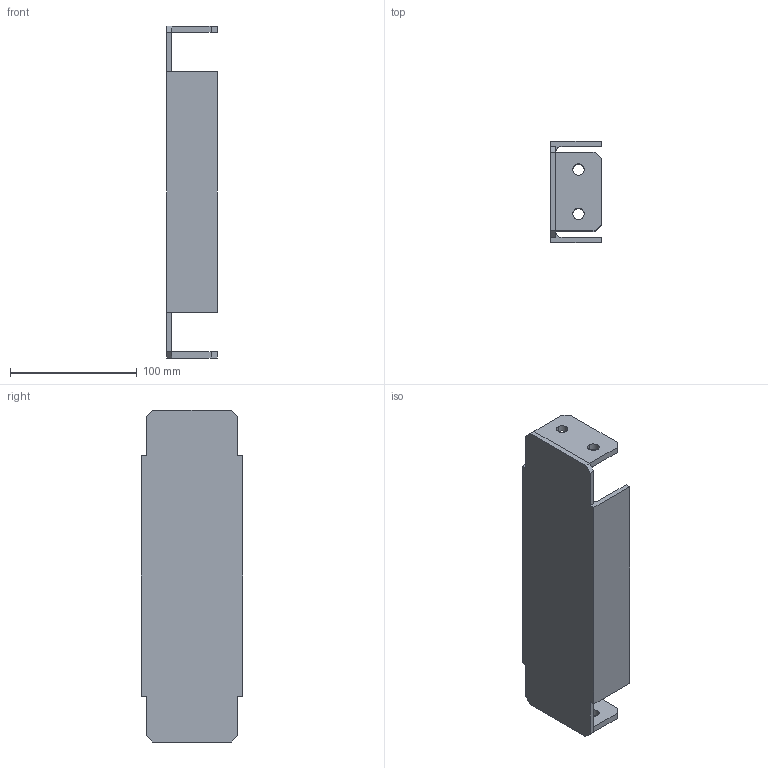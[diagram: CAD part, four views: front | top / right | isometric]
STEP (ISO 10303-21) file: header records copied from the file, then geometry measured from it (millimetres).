
FILE_DESCRIPTION (( 'STEP AP214' ), '1' );
FILE_NAME ('ÂØÀÅ.301343.020 Îïîðà.STEP', '2024-04-17T12:45:02', ( '' ), ( '' ), 'SwSTEP 2.0', 'SolidWorks 2019', '' );
FILE_SCHEMA (( 'AUTOMOTIVE_DESIGN' ));
Length unit declared in the file: millimetre
Products named in the file (3): ÂØÀÅ.746221.001 Îïîðà_262à; 贅斃.741124.125 砑僔蠂縺; ÂØÀÅ.301343.020 Îïîðà
Assembly tree (3 placements, depth 2):
  ÂØÀÅ.301343.020 Îïîðà
    ÂØÀÅ.746221.001 Îïîðà_262à
    贅斃.741124.125 砑僔蠂縺  x2
Bounding box: 40 x 80 x 262 mm (x, y, z)
Volume: 158892.4 mm3; surface area: 81285.1 mm2
Topology: 3 solids, 3 shells, 48 faces, 126 edges, 84 vertices
Faces by surface type: plane 38, cylinder 10
Entity records: 1238 total; most frequent: CARTESIAN_POINT 202, ORIENTED_EDGE 192, DIRECTION 192, EDGE_CURVE 96, VECTOR 84, LINE 84, VERTEX_POINT 64, AXIS2_PLACEMENT_3D 54
